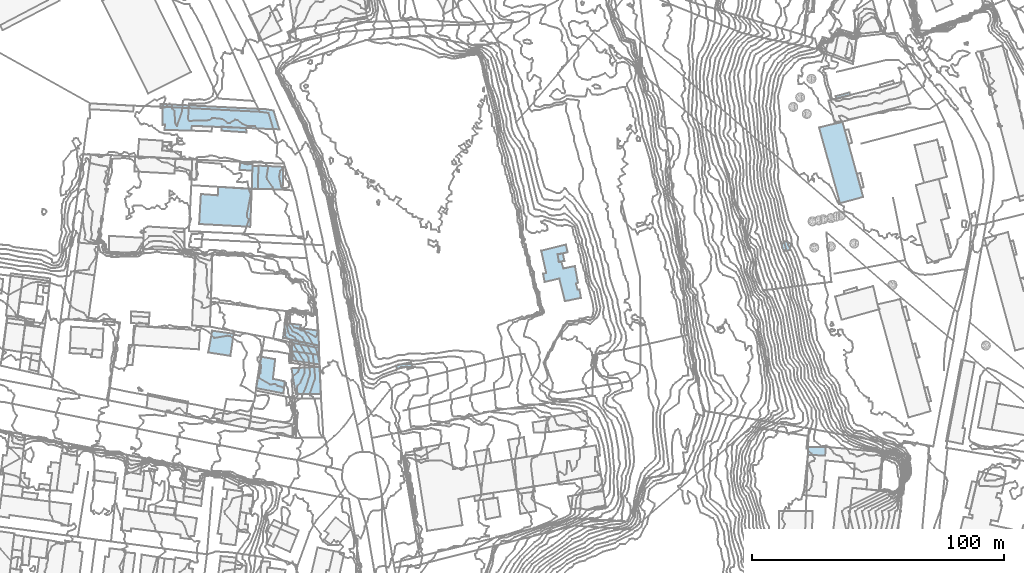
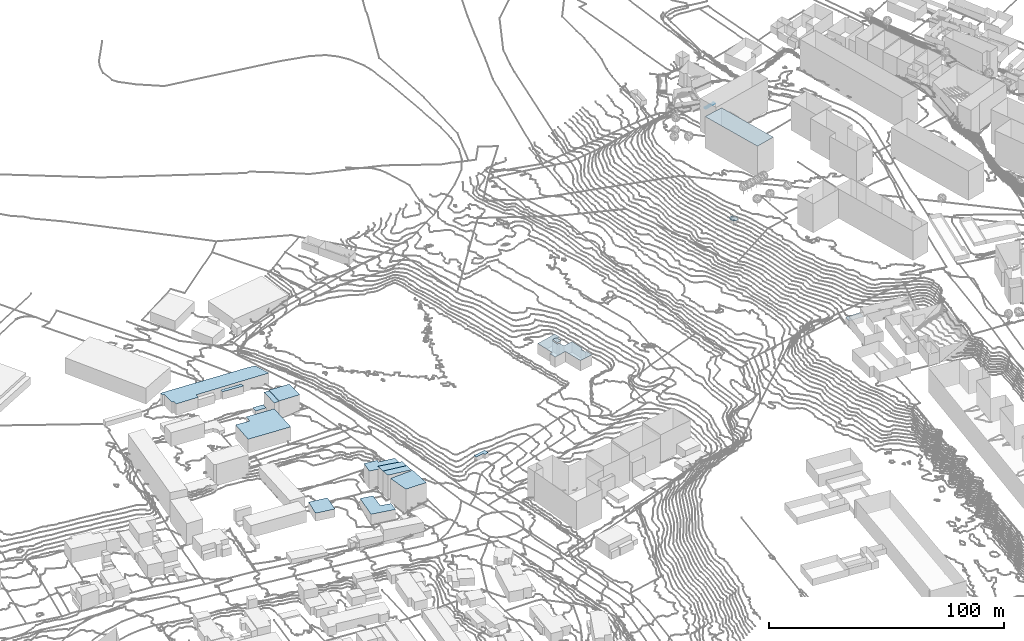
# Not in any storey, part 93 of 419: 19 roofs.
"""IFC2X3 model written with IfcOpenShell, lengths in metres."""

from ifc_helpers import new_model, si_unit, frame, origin_with_axes, place, context, subcontext, project, faceted_brep, element, save


model = new_model("IFC2X3")

# Units and contexts
model_context = context("Model", 3, precision=1e-05, world=origin_with_axes())
body_context = subcontext(model_context, "Body", "Model", "MODEL_VIEW")
ifc_project = project(units=[si_unit("AREAUNIT", "SQUARE_METRE"), si_unit("LENGTHUNIT", "METRE")], contexts=[model_context])

# Roofs
roof_1_placement = place(None, frame((592.7920204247, 944.9976909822, 50.1320001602), z_axis=(0.0, 0.0, 1.0), x_axis=(1.0, 0.0, 0.0)))
element("IfcRoof", 1, at=roof_1_placement, Name="Toiture 0", ShapeType="NOTDEFINED", context=body_context, shape_type="Brep", body=[
    faceted_brep([(0.0, 0.0, 9.3679998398), (2.4, 0.0, 9.3679998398), (2.7000000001, 8.9000000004, 9.3679998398), (0.3, 9.1000000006, 9.3679998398)], [[[0, 1, 2]], [[2, 3, 0]]]),
])
roof_2_placement = place(None, frame((818.1920204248, 969.3976909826, 98.0246006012), z_axis=(0.0, 0.0, 1.0), x_axis=(1.0, 0.0, 0.0)))
element("IfcRoof", 2, at=roof_2_placement, Name="Toiture 0", ShapeType="NOTDEFINED", context=body_context, shape_type="Brep", body=[
    faceted_brep([(9.3, 2.0999999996, 16.2753993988), (6.3, 1.5, 16.2753993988), (0.0, 0.0, 16.2753993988), (8.3, -30.0999999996, 16.2753993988), (17.5, -27.5999999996, 16.2753993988)], [[[0, 1, 2]], [[2, 3, 4]], [[4, 0, 2]]]),
])
roof_3_placement = place(None, frame((605.1920204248, 885.7976909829, 46.5244003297), z_axis=(0.0, 0.0, 1.0), x_axis=(1.0, 0.0, 0.0)))
element("IfcRoof", 3, at=roof_3_placement, Name="Toiture 0", ShapeType="NOTDEFINED", context=body_context, shape_type="Brep", body=[
    faceted_brep([(14.3, -3.1000000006, 9.2755996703), (14.1, 2.7999999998, 9.2755996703), (6.7000000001, 3.8999999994, 9.2755996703), (7.1, 5.0999999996, 9.2755996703), (0.8, 5.8999999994, 9.2755996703), (0.0, 0.0, 9.2755996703)], [[[0, 1, 2]], [[2, 3, 4]], [[4, 5, 0]], [[0, 2, 4]]]),
])
roof_4_placement = place(None, frame((595.1920204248, 944.9976909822, 50.2927998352), z_axis=(0.0, 0.0, 1.0), x_axis=(1.0, 0.0, 0.0)))
element("IfcRoof", 4, at=roof_4_placement, Name="Toiture 0", ShapeType="NOTDEFINED", context=body_context, shape_type="Brep", body=[
    faceted_brep([(0.0, 0.0, 9.4072001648), (9.9, -0.2999999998, 9.4072001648), (10.1, 8.7000000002, 9.4072001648), (0.3, 9.2000000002, 9.4072001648)], [[[0, 1, 2]], [[2, 3, 0]]]),
])
roof_5_placement = place(None, frame((594.4920204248, 865.7976909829, 44.244799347), z_axis=(0.0, 0.0, 1.0), x_axis=(1.0, 0.0, 0.0)))
element("IfcRoof", 5, at=roof_5_placement, Name="Toiture 0", ShapeType="NOTDEFINED", context=body_context, shape_type="Brep", body=[
    faceted_brep([(7.6, 11.5, 4.955200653), (1.9, 12.5, 4.955200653), (0.0, 0.0, 4.955200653), (10.9, -2.1000000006, 4.955200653), (11.4, 2.6999999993, 4.955200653), (6.7, 3.6999999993, 4.955200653)], [[[0, 1, 2]], [[2, 3, 4]], [[5, 0, 2]], [[2, 4, 5]]]),
])
roof_6_placement = place(None, frame((580.7920204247, 968.0976909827, 51.5150000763), z_axis=(0.0, 0.0, 1.0), x_axis=(1.0, 0.0, 0.0)))
element("IfcRoof", 6, at=roof_6_placement, Name="Toiture 0", ShapeType="NOTDEFINED", context=body_context, shape_type="Brep", body=[
    faceted_brep([(9.8, 1.0, 3.9849999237), (0.0, 1.5999999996, 3.9849999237), (0.0, 0.0, 3.9849999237), (9.9, -0.7000000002, 3.9849999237)], [[[0, 1, 2]], [[2, 3, 0]]]),
])
roof_7_placement = place(None, frame((650.1920204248, 874.7976909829, 52.295199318), z_axis=(0.0, 0.0, 1.0), x_axis=(1.0, 0.0, 0.0)))
element("IfcRoof", 7, at=roof_7_placement, Name="Toiture 0", ShapeType="NOTDEFINED", context=body_context, shape_type="Brep", body=[
    faceted_brep([(0.0, 0.0, 2.304800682), (0.3, -1.3000000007, 2.304800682), (4.2000000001, -0.5, 2.304800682), (4.5, -1.5, 2.304800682), (6.6, -0.9000000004, 2.304800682), (5.9, 1.3999999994, 2.304800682)], [[[0, 1, 2]], [[2, 3, 4]], [[5, 0, 2]], [[2, 4, 5]]]),
])
roof_8_placement = place(None, frame((824.6920204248, 981.7976909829, 101.1435016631), z_axis=(0.0, 0.0, 1.0), x_axis=(1.0, 0.0, 0.0)))
element("IfcRoof", 8, at=roof_8_placement, Name="Toiture 0", ShapeType="NOTDEFINED", context=body_context, shape_type="Brep", body=[
    faceted_brep([(0.0, 0.0, 7.8564983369), (0.4, -1.1000000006, 7.8564983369), (5.9, 0.3999999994, 7.8564983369), (5.6, 1.5, 7.8564983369)], [[[0, 1, 2]], [[2, 3, 0]]]),
])
roof_9_placement = place(None, frame((803.3920204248, 921.6976909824, 93.1024017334), z_axis=(0.0, 0.0, 1.0), x_axis=(1.0, 0.0, 0.0)))
element("IfcRoof", 9, at=roof_9_placement, Name="Toiture 0", ShapeType="NOTDEFINED", context=body_context, shape_type="Brep", body=[
    faceted_brep([(1.7999999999, -1.3999999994, 1.5975982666), (3.0, -1.0, 1.5975982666), (3.7, 1.1000000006, 1.5975982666), (1.8999999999, 2.5, 1.5975982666), (0.7, 2.2000000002, 1.5975982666), (0.0, 1.2000000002, 1.5975982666), (0.0, 0.0, 1.5975982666), (0.7, -1.0, 1.5975982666)], [[[0, 1, 2]], [[2, 3, 4]], [[4, 5, 6]], [[6, 7, 0]], [[0, 2, 4]], [[4, 6, 0]]]),
])
roof_10_placement = place(None, frame((813.6920204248, 839.1976909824, 85.8652003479), z_axis=(0.0, 0.0, 1.0), x_axis=(1.0, 0.0, 0.0)))
element("IfcRoof", 10, at=roof_10_placement, Name="Toiture 0", ShapeType="NOTDEFINED", context=body_context, shape_type="Brep", body=[
    faceted_brep([(7.1, 3.2999999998, 2.9347996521), (0.0, 3.2000000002, 2.9347996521), (0.0, 0.0, 2.9347996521), (6.9, -0.0999999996, 2.9347996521)], [[[0, 1, 2]], [[2, 3, 0]]]),
])
roof_11_placement = place(None, frame((587.9920204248, 952.4976909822, 50.0516007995), z_axis=(0.0, 0.0, 1.0), x_axis=(1.0, 0.0, 0.0)))
element("IfcRoof", 11, at=roof_11_placement, Name="Toiture 0", ShapeType="NOTDEFINED", context=body_context, shape_type="Brep", body=[
    faceted_brep([(5.1, 1.6000000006, 2.4483992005), (5.2, 2.4000000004, 2.4483992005), (0.1, 2.7000000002, 2.4483992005), (0.0, 0.0, 2.4483992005), (5.1, -0.2999999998, 2.4483992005)], [[[0, 1, 2]], [[2, 3, 4]], [[4, 0, 2]]]),
])
roof_12_placement = place(None, frame((608.8920204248, 880.4976909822, 45.5800006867), z_axis=(0.0, 0.0, 1.0), x_axis=(1.0, 0.0, 0.0)))
element("IfcRoof", 12, at=roof_12_placement, Name="Toiture 0", ShapeType="NOTDEFINED", context=body_context, shape_type="Brep", body=[
    faceted_brep([(10.8999999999, -5.2999999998, 12.1199993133), (10.7, -1.5, 12.1199993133), (0.0, 0.0, 12.1199993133), (0.2, -3.6999999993, 12.1199993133)], [[[0, 1, 2]], [[2, 3, 0]]]),
])
roof_13_placement = place(None, frame((575.4920204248, 879.9976909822, 43.6664001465), z_axis=(0.0, 0.0, 1.0), x_axis=(1.0, 0.0, 0.0)))
element("IfcRoof", 13, at=roof_13_placement, Name="Toiture 0", ShapeType="NOTDEFINED", context=body_context, shape_type="Brep", body=[
    faceted_brep([(10.1, 7.4000000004, 4.1335998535), (1.6, 8.6000000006, 4.1335998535), (0.0, 0.0, 4.1335998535), (8.7999999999, -1.3999999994, 4.1335998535)], [[[0, 1, 2]], [[2, 3, 0]]]),
])
roof_14_placement = place(None, frame((707.7920204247, 920.3976909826, 59.5370002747), z_axis=(0.0, 0.0, 1.0), x_axis=(1.0, 0.0, 0.0)))
element("IfcRoof", 14, at=roof_14_placement, Name="Toiture 0", ShapeType="NOTDEFINED", context=body_context, shape_type="Brep", body=[
    faceted_brep([(10.5, -0.5999999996, 5.4629997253), (9.8, 2.5, 5.4629997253), (0.0, 0.0, 5.4629997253), (2.0, -8.7999999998, 5.4629997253), (0.7000000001, -9.0999999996, 5.4629997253), (1.4, -12.4000000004, 5.4629997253), (7.2000000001, -11.0, 5.4629997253), (9.4, -20.0, 5.4629997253), (15.8, -18.7000000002, 5.4629997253), (15.2000000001, -15.5, 5.4629997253), (14.5, -15.5, 5.4629997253), (13.8, -13.0, 5.4629997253), (14.6000000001, -12.7000000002, 5.4629997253), (13.4, -6.0999999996, 5.4629997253), (8.8, -7.0, 5.4629997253), (8.0, -4.4000000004, 5.4629997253), (7.0, -4.4000000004, 5.4629997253), (6.5, -1.4000000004, 5.4629997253)], [[[0, 1, 2]], [[3, 4, 5]], [[6, 7, 8]], [[8, 9, 10]], [[11, 12, 13]], [[14, 15, 16]], [[17, 0, 2]], [[3, 5, 6]], [[6, 8, 10]], [[11, 13, 14]], [[16, 17, 2]], [[2, 3, 6]], [[6, 10, 11]], [[14, 16, 2]], [[2, 6, 11]], [[11, 14, 2]]]),
])
roof_15_placement = place(None, frame((714.2920204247, 918.9976909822, 59.7019989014), z_axis=(0.0, 0.0, 1.0), x_axis=(1.0, 0.0, 0.0)))
element("IfcRoof", 15, at=roof_15_placement, Name="Toiture 0", ShapeType="NOTDEFINED", context=body_context, shape_type="Brep", body=[
    faceted_brep([(2.7000000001, -2.5999999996, 5.9980010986), (2.1000000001, 0.3000000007, 5.9980010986), (0.0, 0.0, 5.9980010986), (0.5, -3.0, 5.9980010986)], [[[0, 1, 2]], [[2, 3, 0]]]),
])
roof_16_placement = place(None, frame((608.7920204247, 884.7976909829, 46.2310001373), z_axis=(0.0, 0.0, 1.0), x_axis=(1.0, 0.0, 0.0)))
element("IfcRoof", 16, at=roof_16_placement, Name="Toiture 0", ShapeType="NOTDEFINED", context=body_context, shape_type="Brep", body=[
    faceted_brep([(10.8, -5.8000000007, 11.3689998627), (10.7000000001, -2.1000000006, 11.3689998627), (0.0, 0.0, 11.3689998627), (0.1000000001, -4.3000000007, 11.3689998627)], [[[0, 1, 2]], [[2, 3, 0]]]),
])
roof_17_placement = place(None, frame((608.5920204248, 873.6976909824, 45.5710010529), z_axis=(0.0, 0.0, 1.0), x_axis=(1.0, 0.0, 0.0)))
element("IfcRoof", 17, at=roof_17_placement, Name="Toiture 0", ShapeType="NOTDEFINED", context=body_context, shape_type="Brep", body=[
    faceted_brep([(11.7, -10.2999999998, 12.5289989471), (11.2, 0.6000000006, 12.5289989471), (0.0, 0.0, 12.5289989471), (1.7, -10.2000000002, 12.5289989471)], [[[0, 1, 2]], [[2, 3, 0]]]),
])
roof_18_placement = place(None, frame((556.4920204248, 976.9976909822, 51.0254006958), z_axis=(0.0, 0.0, 1.0), x_axis=(1.0, 0.0, 0.0)))
element("IfcRoof", 18, at=roof_18_placement, Name="Toiture 0", ShapeType="NOTDEFINED", context=body_context, shape_type="Brep", body=[
    faceted_brep([(45.0, -0.8999999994, 5.8745993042), (41.7, -0.3999999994, 5.8745993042), (0.0, 1.7000000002, 5.8745993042), (0.0, 0.0, 5.8745993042), (0.9, 0.0, 5.8745993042), (0.7999999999, -6.5999999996, 5.8745993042), (1.7999999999, -6.5, 5.8745993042), (1.7, -8.5999999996, 5.8745993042), (12.2999999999, -8.8999999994, 5.8745993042), (12.5, -7.0, 5.8745993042), (47.2999999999, -8.3999999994, 5.8745993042)], [[[0, 1, 2]], [[2, 3, 4]], [[4, 5, 6]], [[6, 7, 8]], [[9, 10, 0]], [[0, 2, 4]], [[4, 6, 8]], [[9, 0, 4]], [[4, 8, 9]]]),
])
roof_19_placement = place(None, frame((571.8920204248, 930.9976909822, 49.2930014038), z_axis=(0.0, 0.0, 1.0), x_axis=(1.0, 0.0, 0.0)))
element("IfcRoof", 19, at=roof_19_placement, Name="Toiture 0", ShapeType="NOTDEFINED", context=body_context, shape_type="Brep", body=[
    faceted_brep([(20.2999999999, -1.0999999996, 7.2069985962), (20.8999999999, 14.0, 7.2069985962), (7.6, 14.8000000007, 7.2069985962), (7.3999999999, 11.4000000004, 7.2069985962), (0.7, 11.9000000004, 7.2069985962), (0.0, 0.0, 7.2069985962)], [[[0, 1, 2]], [[3, 4, 5]], [[0, 2, 3]], [[3, 5, 0]]]),
])

save(model, "model.ifc")
